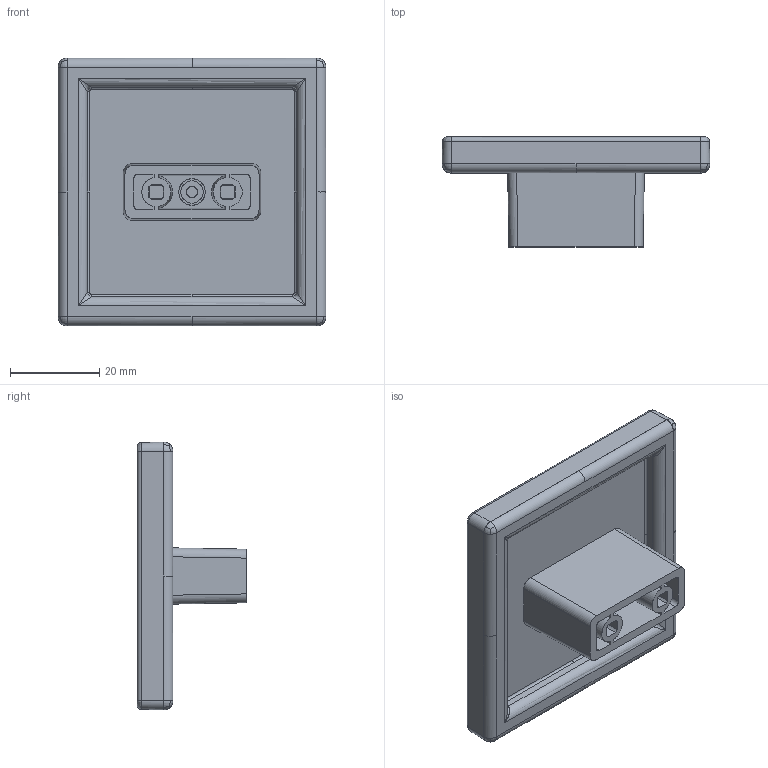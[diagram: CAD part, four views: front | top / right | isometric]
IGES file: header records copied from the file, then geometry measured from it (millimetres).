
Start section: C
Global section: file name: 8151-60.igs; native system: By Siemens PLM Incorporated; preprocessor: XPlus GENERIC/IGES 16.0.42; author: Author; organization: Title; date: 20230831.151713; units: millimetre
Bounding box: 59.93 x 24.6 x 59.93 mm (x, y, z)
Surface area: 23618.3 mm2 (no closed solid volume)
Topology: 0 solids, 0 shells, 213 faces, 1032 edges, 1020 vertices
Faces by surface type: bspline 213
